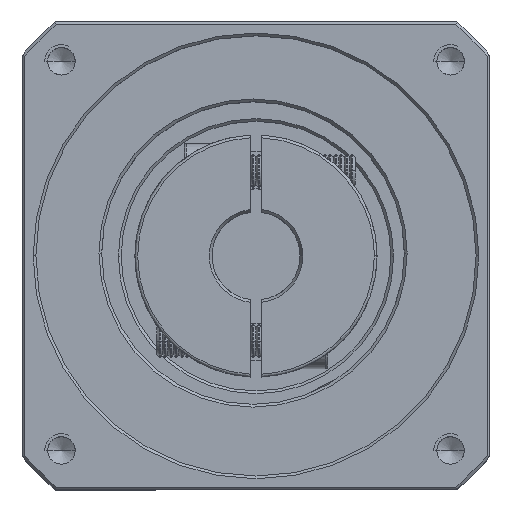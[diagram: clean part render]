
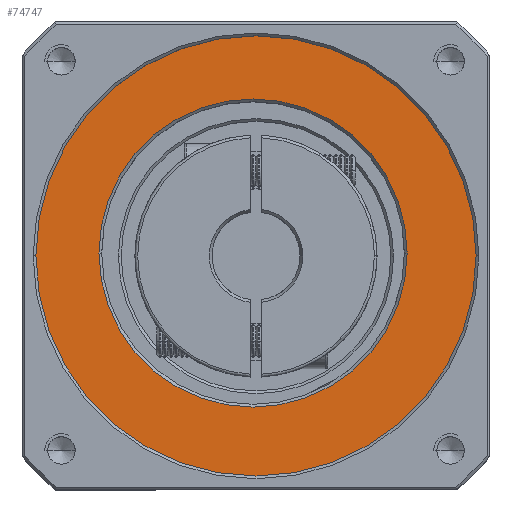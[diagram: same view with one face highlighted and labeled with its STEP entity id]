
A CAD part, top view. The second image highlights one B-rep face of the part: STEP entity #74747.
In plain terms, the highlighted planar face has unit normal (0, 0, 1).
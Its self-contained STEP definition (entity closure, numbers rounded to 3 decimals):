
#2803 = DIRECTION ( 'NONE',  ( 0., 0., 1. ) ) ;
#3790 = DIRECTION ( 'NONE',  ( 0., 0., 1. ) ) ;
#6439 = EDGE_CURVE ( 'NONE', #24207, #59257, #37894, .T. ) ;
#8602 = ORIENTED_EDGE ( 'NONE', *, *, #6439, .T. ) ;
#9289 = AXIS2_PLACEMENT_3D ( 'NONE', #61601, #2803, #71518 ) ;
#11485 = CIRCLE ( 'NONE', #116418, 28. ) ;
#11661 = CIRCLE ( 'NONE', #87733, 28. ) ;
#15155 = CARTESIAN_POINT ( 'NONE',  ( -55.926, 18.511, 20.519 ) ) ;
#16708 = CARTESIAN_POINT ( 'NONE',  ( -135.926, 18.511, 20.519 ) ) ;
#21687 = CARTESIAN_POINT ( 'NONE',  ( -95.926, 18.511, 20.519 ) ) ;
#22643 = EDGE_LOOP ( 'NONE', ( #52369, #8602 ) ) ;
#23541 = CIRCLE ( 'NONE', #9289, 40. ) ;
#24207 = VERTEX_POINT ( 'NONE', #16708 ) ;
#27617 = DIRECTION ( 'NONE',  ( 0., 0., -1. ) ) ;
#30123 = ORIENTED_EDGE ( 'NONE', *, *, #67516, .T. ) ;
#31343 = CARTESIAN_POINT ( 'NONE',  ( -68.468, 19.045, 20.519 ) ) ;
#31563 = DIRECTION ( 'NONE',  ( 1., 0., 0. ) ) ;
#32377 = EDGE_CURVE ( 'NONE', #59257, #24207, #23541, .T. ) ;
#32714 = EDGE_CURVE ( 'NONE', #68485, #79205, #11485, .T. ) ;
#32749 = AXIS2_PLACEMENT_3D ( 'NONE', #21687, #90527, #31563 ) ;
#35593 = CARTESIAN_POINT ( 'NONE',  ( -124.468, 19.045, 20.519 ) ) ;
#36191 = ORIENTED_EDGE ( 'NONE', *, *, #32714, .T. ) ;
#37894 = CIRCLE ( 'NONE', #126331, 40. ) ;
#45909 = CARTESIAN_POINT ( 'NONE',  ( -96.468, 19.045, 20.519 ) ) ;
#52369 = ORIENTED_EDGE ( 'NONE', *, *, #32377, .T. ) ;
#55766 = DIRECTION ( 'NONE',  ( 1., 0., 0. ) ) ;
#59257 = VERTEX_POINT ( 'NONE', #15155 ) ;
#61601 = CARTESIAN_POINT ( 'NONE',  ( -95.926, 18.511, 20.519 ) ) ;
#62616 = CARTESIAN_POINT ( 'NONE',  ( -95.926, 18.511, 20.519 ) ) ;
#67516 = EDGE_CURVE ( 'NONE', #79205, #68485, #11661, .T. ) ;
#68485 = VERTEX_POINT ( 'NONE', #35593 ) ;
#71518 = DIRECTION ( 'NONE',  ( 1., 0., 0. ) ) ;
#72519 = DIRECTION ( 'NONE',  ( 1., 0., 0. ) ) ;
#73103 = FACE_OUTER_BOUND ( 'NONE', #22643, .T. ) ;
#74747 = ADVANCED_FACE ( 'NONE', ( #73103, #102356 ), #109871, .T. ) ;
#79205 = VERTEX_POINT ( 'NONE', #31343 ) ;
#86564 = CARTESIAN_POINT ( 'NONE',  ( -96.468, 19.045, 20.519 ) ) ;
#87733 = AXIS2_PLACEMENT_3D ( 'NONE', #45909, #114744, #55766 ) ;
#90527 = DIRECTION ( 'NONE',  ( 0., 0., 1. ) ) ;
#95925 = EDGE_LOOP ( 'NONE', ( #30123, #36191 ) ) ;
#96460 = DIRECTION ( 'NONE',  ( 1., 0., 0. ) ) ;
#102356 = FACE_BOUND ( 'NONE', #95925, .T. ) ;
#109871 = PLANE ( 'NONE',  #32749 ) ;
#114744 = DIRECTION ( 'NONE',  ( 0., 0., -1. ) ) ;
#116418 = AXIS2_PLACEMENT_3D ( 'NONE', #86564, #27617, #96460 ) ;
#126331 = AXIS2_PLACEMENT_3D ( 'NONE', #62616, #3790, #72519 ) ;
